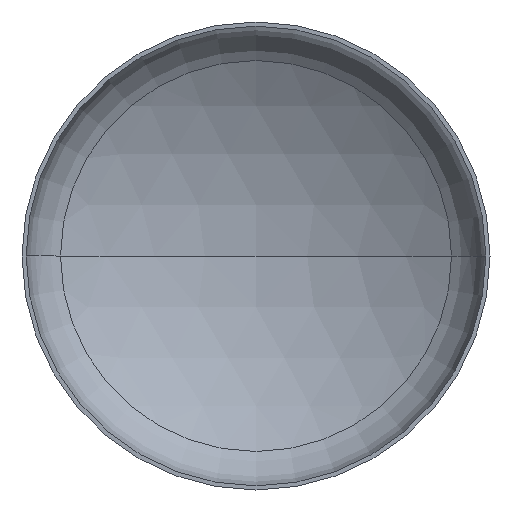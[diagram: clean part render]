
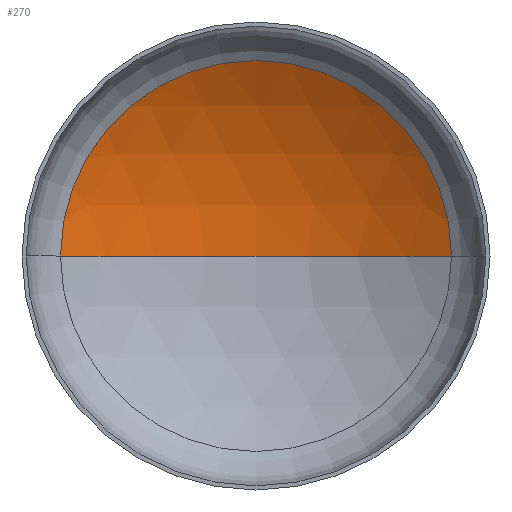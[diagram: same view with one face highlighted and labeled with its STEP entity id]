
A CAD part, front view. The second image highlights one B-rep face of the part: STEP entity #270.
In plain terms, the highlighted spherical face has radius 4400 mm.
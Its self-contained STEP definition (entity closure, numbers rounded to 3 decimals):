
#9 = DIRECTION ( 'NONE',  ( -1., 0., 0. ) ) ;
#12 = DIRECTION ( 'NONE',  ( 0., 0., -1. ) ) ;
#18 = VERTEX_POINT ( 'NONE', #291 ) ;
#52 = EDGE_LOOP ( 'NONE', ( #231, #98, #178 ) ) ;
#58 = AXIS2_PLACEMENT_3D ( 'NONE', #399, #60, #149 ) ;
#60 = DIRECTION ( 'NONE',  ( 0., 0., -1. ) ) ;
#90 = AXIS2_PLACEMENT_3D ( 'NONE', #145, #123, #143 ) ;
#95 = AXIS2_PLACEMENT_3D ( 'NONE', #223, #12, #9 ) ;
#98 = ORIENTED_EDGE ( 'NONE', *, *, #232, .T. ) ;
#103 = AXIS2_PLACEMENT_3D ( 'NONE', #200, #193, #326 ) ;
#123 = DIRECTION ( 'NONE',  ( 0., 0., 1. ) ) ;
#143 = DIRECTION ( 'NONE',  ( 1., 0., 0. ) ) ;
#145 = CARTESIAN_POINT ( 'NONE',  ( 0., -2882.044, 0. ) ) ;
#149 = DIRECTION ( 'NONE',  ( -1., 0., 0. ) ) ;
#178 = ORIENTED_EDGE ( 'NONE', *, *, #230, .T. ) ;
#192 = FACE_OUTER_BOUND ( 'NONE', #52, .T. ) ;
#193 = DIRECTION ( 'NONE',  ( 0., -1., 0. ) ) ;
#200 = CARTESIAN_POINT ( 'NONE',  ( 0., 870.697, 0. ) ) ;
#223 = CARTESIAN_POINT ( 'NONE',  ( 0., -2882.044, 0. ) ) ;
#229 = CIRCLE ( 'NONE', #95, 4400. ) ;
#230 = EDGE_CURVE ( 'NONE', #18, #265, #297, .T. ) ;
#231 = ORIENTED_EDGE ( 'NONE', *, *, #241, .F. ) ;
#232 = EDGE_CURVE ( 'NONE', #302, #18, #229, .T. ) ;
#241 = EDGE_CURVE ( 'NONE', #302, #265, #290, .T. ) ;
#265 = VERTEX_POINT ( 'NONE', #334 ) ;
#270 = ADVANCED_FACE ( 'NONE', ( #192 ), #343, .F. ) ;
#284 = CARTESIAN_POINT ( 'NONE',  ( 0., 1517.956, 0. ) ) ;
#290 = CIRCLE ( 'NONE', #90, 4400. ) ;
#291 = CARTESIAN_POINT ( 'NONE',  ( 2297.159, 870.697, 0. ) ) ;
#297 = CIRCLE ( 'NONE', #103, 2297.159 ) ;
#302 = VERTEX_POINT ( 'NONE', #284 ) ;
#326 = DIRECTION ( 'NONE',  ( 1., 0., 0. ) ) ;
#334 = CARTESIAN_POINT ( 'NONE',  ( -2297.159, 870.697, 0. ) ) ;
#343 = SPHERICAL_SURFACE ( 'NONE', #58, 4400. ) ;
#399 = CARTESIAN_POINT ( 'NONE',  ( 0., -2882.044, 0. ) ) ;
